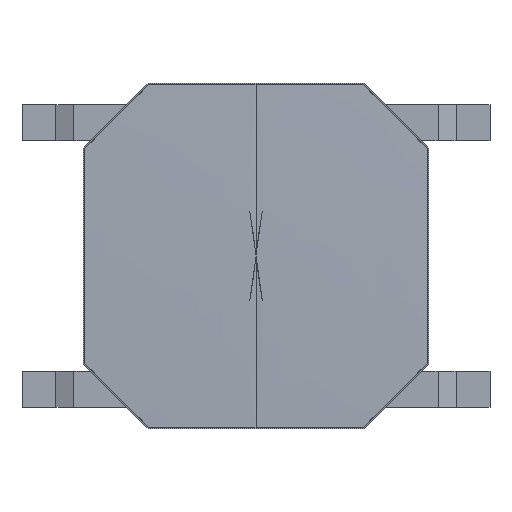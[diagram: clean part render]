
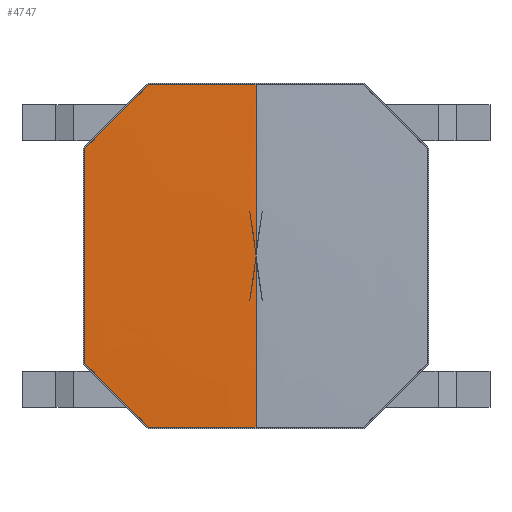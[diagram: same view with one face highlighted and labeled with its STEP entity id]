
A CAD part, front view. The second image highlights one B-rep face of the part: STEP entity #4747.
In plain terms, the highlighted face is a revolution surface.
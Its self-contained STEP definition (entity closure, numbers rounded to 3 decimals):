
#4396=CARTESIAN_POINT('',(-2.38,-0.068,1.492));
#4397=CARTESIAN_POINT('',(-2.38,-0.069,1.426));
#4398=CARTESIAN_POINT('',(-2.38,-0.071,1.293));
#4399=CARTESIAN_POINT('',(-2.38,-0.073,1.095));
#4400=CARTESIAN_POINT('',(-2.38,-0.074,0.896));
#4401=CARTESIAN_POINT('',(-2.38,-0.075,0.698));
#4402=CARTESIAN_POINT('',(-2.38,-0.076,0.499));
#4403=CARTESIAN_POINT('',(-2.38,-0.077,0.3));
#4404=CARTESIAN_POINT('',(-2.38,-0.077,0.101));
#4405=CARTESIAN_POINT('',(-2.38,-0.077,-0.099));
#4406=CARTESIAN_POINT('',(-2.38,-0.077,-0.299));
#4407=CARTESIAN_POINT('',(-2.38,-0.076,-0.498));
#4408=CARTESIAN_POINT('',(-2.38,-0.075,-0.698));
#4409=CARTESIAN_POINT('',(-2.38,-0.074,-0.896));
#4410=CARTESIAN_POINT('',(-2.38,-0.073,-1.095));
#4411=CARTESIAN_POINT('',(-2.38,-0.071,-1.293));
#4412=CARTESIAN_POINT('',(-2.38,-0.069,-1.425));
#4413=CARTESIAN_POINT('',(-2.38,-0.068,-1.492));
#4418=CARTESIAN_POINT('',(-1.492,-0.068,2.38));
#4419=CARTESIAN_POINT('',(-1.565,-0.069,
2.306));
#4420=CARTESIAN_POINT('',(-1.713,-0.07,
2.159));
#4421=CARTESIAN_POINT('',(-1.936,-0.07,
1.936));
#4422=CARTESIAN_POINT('',(-2.159,-0.07,
1.713));
#4423=CARTESIAN_POINT('',(-2.306,-0.069,
1.565));
#4424=CARTESIAN_POINT('',(-2.38,-0.068,1.492));
#4429=CARTESIAN_POINT('',(0.,-0.077,2.38));
#4430=CARTESIAN_POINT('',(-0.063,-0.077,2.38));
#4431=CARTESIAN_POINT('',(-0.188,-0.077,2.38));
#4432=CARTESIAN_POINT('',(-0.375,-0.077,2.38));
#4433=CARTESIAN_POINT('',(-0.562,-0.076,2.38));
#4434=CARTESIAN_POINT('',(-0.749,-0.075,2.38));
#4435=CARTESIAN_POINT('',(-0.935,-0.074,2.38));
#4436=CARTESIAN_POINT('',(-1.12,-0.072,2.38));
#4437=CARTESIAN_POINT('',(-1.306,-0.071,2.38));
#4438=CARTESIAN_POINT('',(-1.43,-0.069,2.38));
#4439=CARTESIAN_POINT('',(-1.492,-0.068,2.38));
#4444=CARTESIAN_POINT('',(0.,-0.1,0.));
#4445=CARTESIAN_POINT('',(0.,-0.1,0.793));
#4446=CARTESIAN_POINT('',(0.,-0.092,1.587));
#4447=CARTESIAN_POINT('',(0.,-0.077,2.38));
#4452=CARTESIAN_POINT('',(0.,-0.1,0.));
#4453=CARTESIAN_POINT('',(0.,-0.1,-0.793));
#4454=CARTESIAN_POINT('',(0.,-0.092,-1.587));
#4455=CARTESIAN_POINT('',(0.,-0.077,-2.38));
#4460=CARTESIAN_POINT('',(-1.492,-0.068,-2.38));
#4461=CARTESIAN_POINT('',(-1.43,-0.069,-2.38));
#4462=CARTESIAN_POINT('',(-1.306,-0.071,-2.38));
#4463=CARTESIAN_POINT('',(-1.119,-0.072,-2.38));
#4464=CARTESIAN_POINT('',(-0.933,-0.074,-2.38));
#4465=CARTESIAN_POINT('',(-0.747,-0.075,-2.38));
#4466=CARTESIAN_POINT('',(-0.561,-0.076,-2.38));
#4467=CARTESIAN_POINT('',(-0.375,-0.077,-2.38));
#4468=CARTESIAN_POINT('',(-0.188,-0.077,-2.38));
#4469=CARTESIAN_POINT('',(-0.063,-0.077,-2.38));
#4470=CARTESIAN_POINT('',(0.,-0.077,-2.38));
#4475=CARTESIAN_POINT('',(-2.38,-0.068,-1.492));
#4476=CARTESIAN_POINT('',(-2.306,-0.069,
-1.565));
#4477=CARTESIAN_POINT('',(-2.159,-0.07,
-1.713));
#4478=CARTESIAN_POINT('',(-1.936,-0.07,
-1.936));
#4479=CARTESIAN_POINT('',(-1.713,-0.07,
-2.159));
#4480=CARTESIAN_POINT('',(-1.565,-0.069,
-2.306));
#4481=CARTESIAN_POINT('',(-1.492,-0.068,-2.38));
#4486=CARTESIAN_POINT('',(0.,-0.077,-2.38));
#4511=CARTESIAN_POINT('',(0.,-0.077,2.38));
#4576=VERTEX_POINT('',#4486);
#4581=VERTEX_POINT('',#4511);
#4582=VERTEX_POINT('',#4396);
#4583=VERTEX_POINT('',#4413);
#4584=VERTEX_POINT('',#4481);
#4585=VERTEX_POINT('',#4439);
#4586=VERTEX_POINT('',#4452);
#4727=CARTESIAN_POINT('',(0.,-0.068,-2.837));
#4728=CARTESIAN_POINT('',(0.,-0.089,-1.891));
#4729=CARTESIAN_POINT('',(0.,-0.1,-0.946));
#4730=CARTESIAN_POINT('',(0.,-0.1,0.));
#4732=CARTESIAN_POINT('',(0.,0.005,0.));
#4733=DIRECTION('',(0.,-1.,0.));
#4734=AXIS1_PLACEMENT('',#4732,#4733);
#4735=SURFACE_OF_REVOLUTION('',#4731,#4734);
#4736=ORIENTED_EDGE('',*,*,#4619,.F.);
#4737=ORIENTED_EDGE('',*,*,#4634,.F.);
#4738=ORIENTED_EDGE('',*,*,#4650,.F.);
#4740=ORIENTED_EDGE('',*,*,#4739,.F.);
#4742=ORIENTED_EDGE('',*,*,#4741,.T.);
#4743=ORIENTED_EDGE('',*,*,#4706,.F.);
#4744=ORIENTED_EDGE('',*,*,#4721,.F.);
#4745=EDGE_LOOP('',(#4736,#4737,#4738,#4740,#4742,#4743,#4744));
#4746=FACE_OUTER_BOUND('',#4745,.F.);
#4414=B_SPLINE_CURVE_WITH_KNOTS('',3,(#4396,#4397,#4398,#4399,#4400,#4401,#4402,
#4403,#4404,#4405,#4406,#4407,#4408,#4409,#4410,#4411,#4412,#4413),
.UNSPECIFIED.,.F.,.F.,(4,1,1,1,1,1,1,1,1,1,1,1,1,1,1,4),(0.,0.067,
0.133,0.2,0.267,0.333,0.4,
0.467,0.533,0.6,0.667,0.733,
0.8,0.867,0.933,1.),.UNSPECIFIED.);
#4425=B_SPLINE_CURVE_WITH_KNOTS('',3,(#4418,#4419,#4420,#4421,#4422,#4423,
#4424),.UNSPECIFIED.,.F.,.F.,(4,1,1,1,4),(0.,0.25,0.5,0.75,1.),
.UNSPECIFIED.);
#4440=B_SPLINE_CURVE_WITH_KNOTS('',3,(#4429,#4430,#4431,#4432,#4433,#4434,#4435,
#4436,#4437,#4438,#4439),.UNSPECIFIED.,.F.,.F.,(4,1,1,1,1,1,1,1,4),(0.,
0.125,0.25,0.375,0.5,0.625,0.75,0.875,1.),.UNSPECIFIED.);
#4448=B_SPLINE_CURVE_WITH_KNOTS('',3,(#4444,#4445,#4446,#4447),.UNSPECIFIED.,
.F.,.F.,(4,4),(0.,1.),.UNSPECIFIED.);
#4456=B_SPLINE_CURVE_WITH_KNOTS('',3,(#4452,#4453,#4454,#4455),.UNSPECIFIED.,
.F.,.F.,(4,4),(0.,1.),.UNSPECIFIED.);
#4471=B_SPLINE_CURVE_WITH_KNOTS('',3,(#4460,#4461,#4462,#4463,#4464,#4465,#4466,
#4467,#4468,#4469,#4470),.UNSPECIFIED.,.F.,.F.,(4,1,1,1,1,1,1,1,4),(0.,
0.125,0.25,0.375,0.5,0.625,0.75,0.875,1.),.UNSPECIFIED.);
#4482=B_SPLINE_CURVE_WITH_KNOTS('',3,(#4475,#4476,#4477,#4478,#4479,#4480,
#4481),.UNSPECIFIED.,.F.,.F.,(4,1,1,1,4),(0.,0.25,0.5,0.75,1.),
.UNSPECIFIED.);
#4619=EDGE_CURVE('',#4582,#4583,#4414,.T.);
#4634=EDGE_CURVE('',#4585,#4582,#4425,.T.);
#4650=EDGE_CURVE('',#4581,#4585,#4440,.T.);
#4706=EDGE_CURVE('',#4584,#4576,#4471,.T.);
#4721=EDGE_CURVE('',#4583,#4584,#4482,.T.);
#4731=B_SPLINE_CURVE_WITH_KNOTS('',3,(#4727,#4728,#4729,#4730),.UNSPECIFIED.,
.F.,.F.,(4,4),(0.,1.),.UNSPECIFIED.);
#4739=EDGE_CURVE('',#4586,#4581,#4448,.T.);
#4741=EDGE_CURVE('',#4586,#4576,#4456,.T.);
#4747=ADVANCED_FACE('',(#4746),#4735,.T.);
